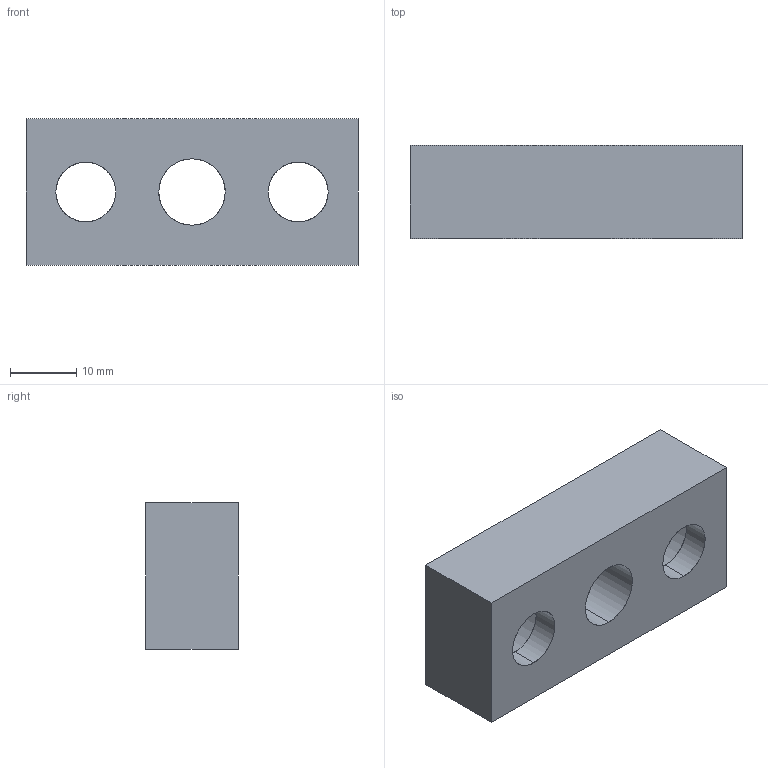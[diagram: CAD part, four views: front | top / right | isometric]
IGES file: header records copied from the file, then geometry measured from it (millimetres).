
Start section: START RECORD GO HERE.
Global section: file name: 761-014050.igs; native system: DASSAULT SYSTEMES CATIA V5 R20 - www.3ds.com; preprocessor: CATIA Version 5 Release 20 ; author: Utente; organization: NB04-ASUS; date: 20200411.201708; units: millimetre
Bounding box: 50 x 14 x 22 mm (x, y, z)
Surface area: 5507.2 mm2 (no closed solid volume)
Topology: 0 solids, 0 shells, 21 faces, 96 edges, 96 vertices
Faces by surface type: revolution 12, extrusion 9
